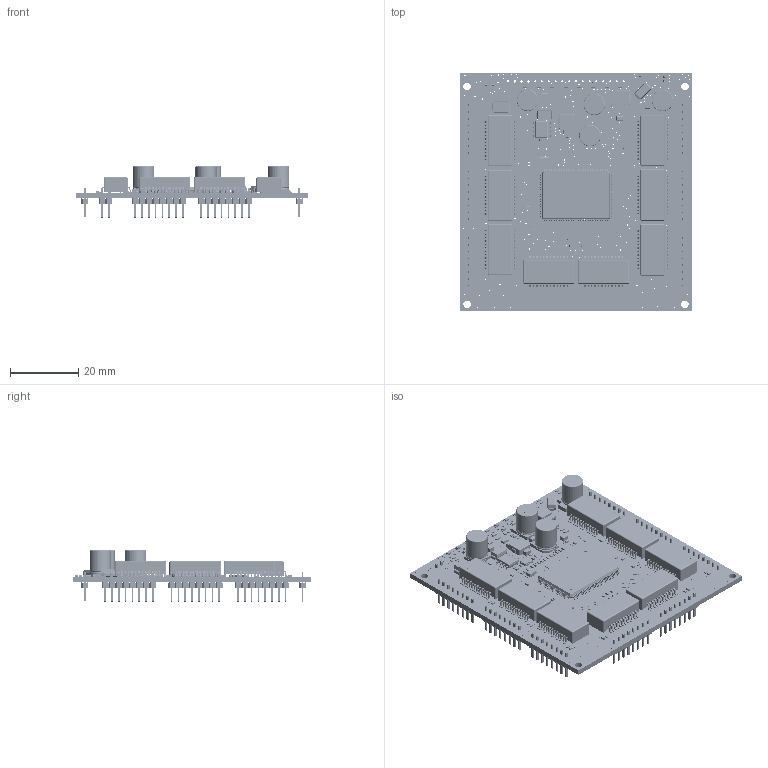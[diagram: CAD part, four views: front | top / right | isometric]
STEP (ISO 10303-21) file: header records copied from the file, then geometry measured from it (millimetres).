
FILE_DESCRIPTION(('Designed by EasyEDA Pro'),'2;1');
FILE_NAME('Open CASCADE Shape Model','2026-07-17T11:18:08',('Author'),( 'Open CASCADE'),'Open CASCADE STEP processor 7.8','Open CASCADE 7.8' ,'Unknown');
FILE_SCHEMA(('AUTOMOTIVE_DESIGN { 1 0 10303 214 1 1 1 1 }'));
Length unit declared in the file: millimetre
Products named in the file (1124): EasyEDA PCB Model~3Dnw; Board~3Dnw; TopCopper~3Dnw; BottomCopper~3Dnw; TopSilkscreen~3Dnw; BottomSilkscreen~3Dnw; TopFpcStiffener~3Dnw; BottomFpcStiffener~3Dnw; 0402~R0402_L1.0-W0.5-H0.4~IpEd; R13~0402~R0402_L1.0-W0.5-H0.4~4bXC; R23~0402~R0402_L1.0-W0.5-H0.4~Ixq1; R24~0402~R0402_L1.0-W0.5-H0.4~5TKS; R25~0402~R0402_L1.0-W0.5-H0.4~19EY; R9~0402~R0402_L1.0-W0.5-H0.4~2a6W; R1~0402~R0402_L1.0-W0.5-H0.4~Aqau; R35~0402~R0402_L1.0-W0.5-H0.4~wyS6; R14~0402~R0402_L1.0-W0.5-H0.4~jaOK; R10~0402~R0402_L1.0-W0.5-H0.4~EnXH; R19~0402~R0402_L1.0-W0.5-H0.4~VOCf; R20~0402~R0402_L1.0-W0.5-H0.4~Sb8e; R5~0402~R0402_L1.0-W0.5-H0.4~4kvW; R6~0402~R0402_L1.0-W0.5-H0.4~IVzb; R72~0402~R0402_L1.0-W0.5-H0.4~y2gY; R16~0402~R0402_L1.0-W0.5-H0.4~0YNE; R17~0402~R0402_L1.0-W0.5-H0.4~7NzG; R18~0402~R0402_L1.0-W0.5-H0.4~YEkS; R21~0402~R0402_L1.0-W0.5-H0.4~FQH2; R204~0402~R0402_L1.0-W0.5-H0.4~DCPk; R4~0402~R0402_L1.0-W0.5-H0.4~IMG6; R11~0402~R0402_L1.0-W0.5-H0.4~B27W; R29~0402~R0402_L1.0-W0.5-H0.4~X52c; R39~0402~R0402_L1.0-W0.5-H0.4~eUb4; R31~0402~R0402_L1.0-W0.5-H0.4~0Oea; R27~0402~R0402_L1.0-W0.5-H0.4~ZIqh; R32~0402~R0402_L1.0-W0.5-H0.4~NAnp; R30~0402~R0402_L1.0-W0.5-H0.4~LZW0; R53~0402~R0402_L1.0-W0.5-H0.4~hTG1; R34~0402~R0402_L1.0-W0.5-H0.4~qZ7G; R33~0402~R0402_L1.0-W0.5-H0.4~IjqM; R59~0402~R0402_L1.0-W0.5-H0.4~QdQ9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
Assembly tree (1258 placements, depth 3):
  EasyEDA PCB Model~3Dnw
    Board~3Dnw
    TopCopper~3Dnw
      TopCopper~3Dnw
      TopCopper~3Dnw
      TopCopper~3Dnw
      TopCopper~3Dnw
      TopCopper~3Dnw
      TopCopper~3Dnw
      TopCopper~3Dnw
      TopCopper~3Dnw
      TopCopper~3Dnw
      TopCopper~3Dnw
      TopCopper~3Dnw
      TopCopper~3Dnw
      TopCopper~3Dnw
      TopCopper~3Dnw
      TopCopper~3Dnw
      TopCopper~3Dnw
      TopCopper~3Dnw
      TopCopper~3Dnw
      TopCopper~3Dnw
      TopCopper~3Dnw
      TopCopper~3Dnw
      TopCopper~3Dnw
      TopCopper~3Dnw
      TopCopper~3Dnw
      TopCopper~3Dnw
      TopCopper~3Dnw
      TopCopper~3Dnw
      TopCopper~3Dnw
      TopCopper~3Dnw
      TopCopper~3Dnw
      TopCopper~3Dnw
      TopCopper~3Dnw
      TopCopper~3Dnw
      TopCopper~3Dnw
      TopCopper~3Dnw
      TopCopper~3Dnw
      TopCopper~3Dnw
      TopCopper~3Dnw
      TopCopper~3Dnw
      TopCopper~3Dnw
      TopCopper~3Dnw
      TopCopper~3Dnw
      TopCopper~3Dnw
      TopCopper~3Dnw
      TopCopper~3Dnw
      TopCopper~3Dnw
      TopCopper~3Dnw
      TopCopper~3Dnw
      TopCopper~3Dnw
      TopCopper~3Dnw
      TopCopper~3Dnw
      TopCopper~3Dnw
      TopCopper~3Dnw
      TopCopper~3Dnw
      TopCopper~3Dnw
      TopCopper~3Dnw
      TopCopper~3Dnw
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Bounding box: 67.97 x 69.97 x 15.02 mm (x, y, z)
Volume: 13020.1 mm3; surface area: 26021.6 mm2
Topology: 494 solids, 1439 shells, 55286 faces, 210199 edges, 160017 vertices
Faces by surface type: plane 33291, bspline 16080, cylinder 5303, sphere 538, torus 66, cone 8
Full cylindrical faces by diameter (mm): 0.189 x1
Entity records: 918638 total; most frequent: CARTESIAN_POINT 210870, DIRECTION 112064, ORIENTED_EDGE 111175, EDGE_CURVE 86721, VERTEX_POINT 78475, LINE 71212, VECTOR 71212, AXIS2_PLACEMENT_3D 20426
